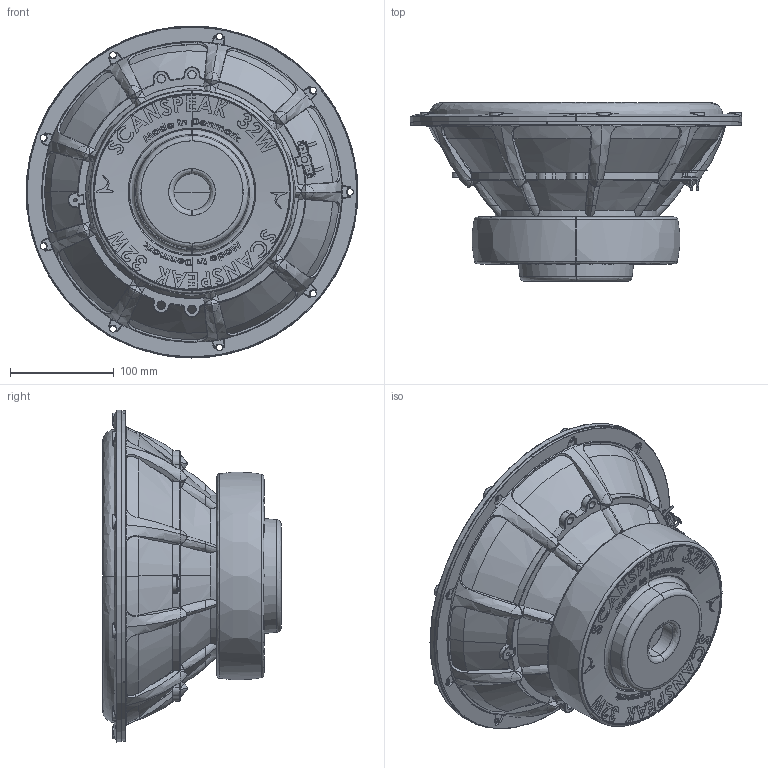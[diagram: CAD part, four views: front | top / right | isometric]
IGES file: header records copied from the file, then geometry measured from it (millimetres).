
Start section: SolidWorks IGES file using analytic representation for surfaces
Global section: file name: W:\TT\32W\32W-8878T01.IGS; native system: SolidWorks 2019; preprocessor: SolidWorks 2019; author: mhn; date: 201124.124826; units: millimetre
Bounding box: 319.88 x 172.27 x 319.88 mm (x, y, z)
Surface area: 360563 mm2 (no closed solid volume)
Topology: 0 solids, 0 shells, 2044 faces, 30124 edges, 30037 vertices
Faces by surface type: bspline 1391, revolution 653
